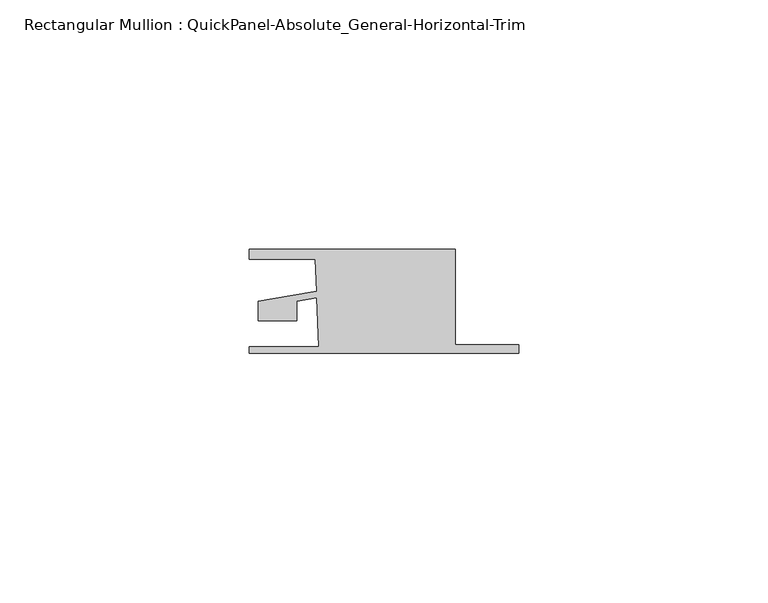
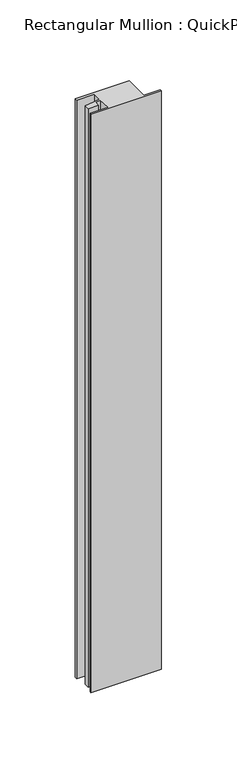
"""IFC4 building model written with IfcOpenShell, lengths in millimetres: member geometry, Rectangular Mullion : QuickPanel-Absolute_General-Horizontal-Trim."""

from ifc_helpers import new_model, si_unit, frame, origin, place, context, project, spatial, polyline, outline, extrude, source, transform, mapped, element, save


def rectangular_mullion_quickpanel_absolute_general_horizontal_192f8292(model_context):
    return source(origin(), model_context, "Body", "SweptSolid", [
        extrude(outline(polyline([(-53.975, 8.6293878), (-12.6805114, 8.6293878), (-12.6805114, -10.4985348), (0.0, -10.4985348), (0.0, -12.1803727), (-53.975, -12.1803727), (-53.975, -10.9303752), (-40.1186466, -10.9303752), (-40.4625736, -1.0815922), (-44.4481426, -1.7648465), (-44.4481426, -5.6493034), (-52.1929157, -5.6493034), (-52.1929157, -1.8040245), (-45.757583, -0.7008023), (-40.5073021, 0.1992641), (-40.7340873, 6.6935423), (-53.975, 6.6935423), (-53.975, 8.6293878)])), frame((0.0, 0.0, -469.0700779), z_axis=(0.0, 0.0, 1.0), x_axis=(1.0, 0.0, 0.0)), (0.0, 0.0, 1.0), 469.0700779),
    ])


if __name__ == "__main__":
    model = new_model("IFC4")
    model_context = context("Model", 3, world=origin())
    ifc_project = project(units=[si_unit("LENGTHUNIT", "METRE", prefix="MILLI")], contexts=[model_context])
    site = spatial("IfcSite", under=ifc_project)
    building = spatial("IfcBuilding", under=site)
    placement = place(None, origin())
    rectangular_mullion_quickpanel_absolute_general_horizontal_shape = rectangular_mullion_quickpanel_absolute_general_horizontal_192f8292(model_context)
    element("IfcMember", 1, ObjectType="Rectangular Mullion : QuickPanel-Absolute_General-Horizontal-Trim", at=placement, inside=building, context=model_context, shape_type="MappedRepresentation", body=[
        mapped(rectangular_mullion_quickpanel_absolute_general_horizontal_shape, transform((0.0, 0.0, 0.0), x_axis=(1.0, 0.0, 0.0), y_axis=(0.0, 1.0, 0.0), z_axis=(0.0, 0.0, 1.0))),
    ])
    save(model, "model.ifc")
